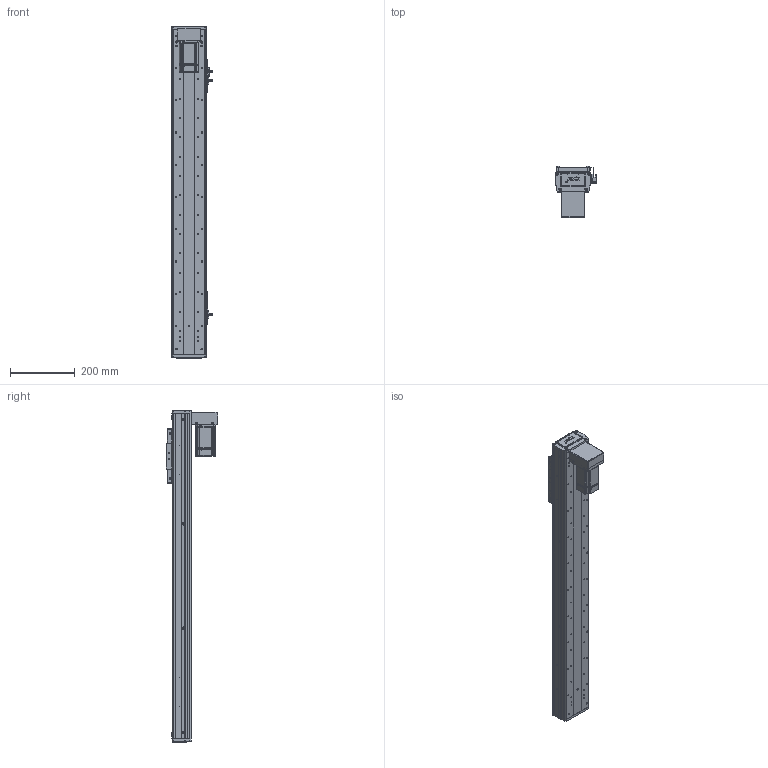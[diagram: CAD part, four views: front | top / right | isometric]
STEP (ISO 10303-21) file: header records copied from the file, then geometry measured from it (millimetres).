
FILE_DESCRIPTION (( 'STEP AP203' ), '1' );
FILE_NAME ('RY100FS-L1620-300-BK(15双轨).SLDASM_750.step', '2021-03-02T07:33:54', ( '盈信电脑' ), ( '东莞市道滘镇水果街19号' ), 'SwSTEP 2.0', 'SolidWorks 2012', '' );
FILE_SCHEMA (( 'CONFIG_CONTROL_DESIGN' ));
Length unit declared in the file: millimetre
Products named in the file (21): 滅袉蝶18-15; RY100FS-15双轨下折钢带安装板; 1; RY100FS-15邧寢狟殏萇儂欶; RY100FS-15邧寢狟殏萇儂啣; RY100FS-双轨螺母座(16丝杆）; 蚥薯蝶紫輸; RY80俋离覜茼え; 覜茼ん672; RY100F-詩湍揤踡輸; RY100F-詩湍幗謫粣; RY100F-詩湍揤踡謫; RY100F-綴裔啣; 672嫖萇羲壽假蚾釱; RY100FS-双轨铝滑块(上板）; 棠沺沭; RY100F-滅鳥裔啣; RY100FS-300-BK15邧寢祥凄詩湍_750; RY100FS-300-BK15絳寢倰第奻裔啣_750; RY100FS-300-BK15絳寢倰第菁釱_750; RY100FS-L1620-300-BK(15邧寢).SLDASM_750
Assembly tree (30 placements, depth 2):
  RY100FS-L1620-300-BK(15邧寢).SLDASM_750
    RY100FS-300-BK15絳寢倰第菁釱_750
    RY100FS-300-BK15絳寢倰第奻裔啣_750  x2
    RY100FS-300-BK15邧寢祥凄詩湍_750
    RY100FS-双轨铝滑块(上板）
    RY100F-滅鳥裔啣
    棠沺沭  x2
    RY100F-詩湍幗謫粣
    RY100F-詩湍揤踡謫  x2
    RY100F-綴裔啣  x2
    672嫖萇羲壽假蚾釱  x2
    RY80俋离覜茼え  x2
    覜茼ん672  x3
    RY100F-詩湍揤踡輸  x2
    RY100FS-双轨螺母座(16丝杆）
    RY100FS-15邧寢狟殏萇儂啣
    RY100FS-15邧寢狟殏萇儂欶
    蚥薯蝶紫輸
    RY100FS-15双轨下折钢带安装板
    滅袉蝶18-15  x2
    1
Bounding box: 126.2 x 158.5 x 1029 mm (x, y, z)
Volume: 2471242.7 mm3; surface area: 1038142.2 mm2
Topology: 30 solids, 30 shells, 2288 faces, 6255 edges, 4072 vertices
Faces by surface type: plane 1098, cylinder 1022, cone 132, bspline 36
Entity records: 62612 total; most frequent: CARTESIAN_POINT 13347, ORIENTED_EDGE 9750, DIRECTION 9740, EDGE_CURVE 4875, AXIS2_PLACEMENT_3D 3421, VERTEX_POINT 3210, LINE 2898, VECTOR 2898
